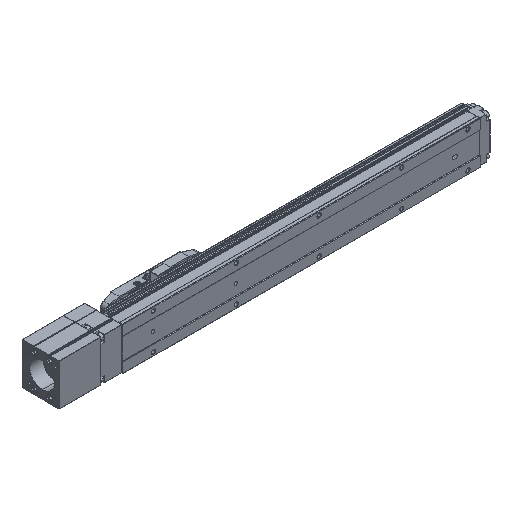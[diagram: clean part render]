
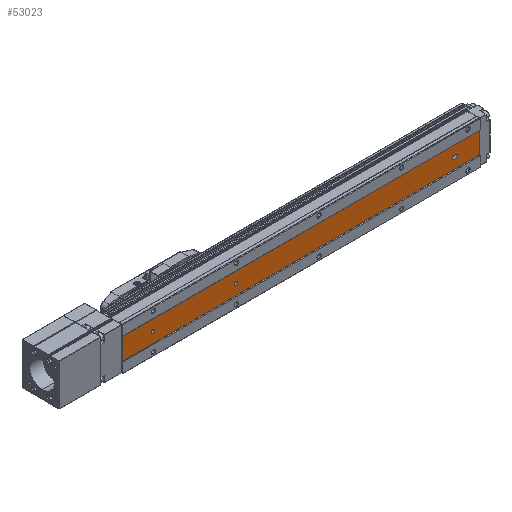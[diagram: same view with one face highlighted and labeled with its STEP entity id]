
A CAD part, isometric view. The second image highlights one B-rep face of the part: STEP entity #53023.
In plain terms, the highlighted planar face has unit normal (0, -1, 0).
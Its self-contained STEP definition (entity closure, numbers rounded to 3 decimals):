
#294 = CARTESIAN_POINT ( 'NONE',  ( 401., 0.6, -2. ) ) ;
#1630 = EDGE_LOOP ( 'NONE', ( #45450, #54212, #1798, #8540 ) ) ;
#1798 = ORIENTED_EDGE ( 'NONE', *, *, #46642, .F. ) ;
#1917 = EDGE_LOOP ( 'NONE', ( #48812, #23396 ) ) ;
#2178 = DIRECTION ( 'NONE',  ( 0., 1., 0. ) ) ;
#2251 = AXIS2_PLACEMENT_3D ( 'NONE', #47615, #23258, #18224 ) ;
#2966 = LINE ( 'NONE', #23673, #31588 ) ;
#3285 = CARTESIAN_POINT ( 'NONE',  ( 137., 0.6, 0. ) ) ;
#4264 = CARTESIAN_POINT ( 'NONE',  ( 403., 0.6, 2. ) ) ;
#4582 = VERTEX_POINT ( 'NONE', #39156 ) ;
#5187 = LINE ( 'NONE', #9410, #15678 ) ;
#5929 = VECTOR ( 'NONE', #53888, 1000. ) ;
#6123 = FACE_OUTER_BOUND ( 'NONE', #1630, .T. ) ;
#6395 = DIRECTION ( 'NONE',  ( 0., 1., 0. ) ) ;
#6606 = VERTEX_POINT ( 'NONE', #22146 ) ;
#7465 = DIRECTION ( 'NONE',  ( 0., 0., 1. ) ) ;
#7619 = ORIENTED_EDGE ( 'NONE', *, *, #8928, .T. ) ;
#7656 = DIRECTION ( 'NONE',  ( 1., 0., 0. ) ) ;
#7771 = VECTOR ( 'NONE', #11274, 1000. ) ;
#8540 = ORIENTED_EDGE ( 'NONE', *, *, #18458, .T. ) ;
#8928 = EDGE_CURVE ( 'NONE', #17136, #24237, #28177, .T. ) ;
#9410 = CARTESIAN_POINT ( 'NONE',  ( 432., 0.6, 2. ) ) ;
#10058 = CARTESIAN_POINT ( 'NONE',  ( 432., 0.6, 12.876 ) ) ;
#10546 = AXIS2_PLACEMENT_3D ( 'NONE', #34297, #38226, #46901 ) ;
#10790 = AXIS2_PLACEMENT_3D ( 'NONE', #3285, #2178, #7465 ) ;
#10972 = DIRECTION ( 'NONE',  ( 0., 0., 1. ) ) ;
#11212 = AXIS2_PLACEMENT_3D ( 'NONE', #48627, #22347, #53380 ) ;
#11274 = DIRECTION ( 'NONE',  ( 0., 0., -1. ) ) ;
#11417 = CARTESIAN_POINT ( 'NONE',  ( 432., 0.6, 12.876 ) ) ;
#12132 = VERTEX_POINT ( 'NONE', #53445 ) ;
#12926 = EDGE_LOOP ( 'NONE', ( #31289, #7619 ) ) ;
#14888 = EDGE_CURVE ( 'NONE', #24237, #17136, #51787, .T. ) ;
#15155 = CARTESIAN_POINT ( 'NONE',  ( 401., 0.6, 0. ) ) ;
#15678 = VECTOR ( 'NONE', #47209, 1000. ) ;
#17136 = VERTEX_POINT ( 'NONE', #54686 ) ;
#17909 = VECTOR ( 'NONE', #45054, 1000. ) ;
#18224 = DIRECTION ( 'NONE',  ( 0., 0., 1. ) ) ;
#18448 = FACE_BOUND ( 'NONE', #12926, .T. ) ;
#18458 = EDGE_CURVE ( 'NONE', #20903, #38404, #2966, .T. ) ;
#18733 = LINE ( 'NONE', #19856, #17909 ) ;
#19856 = CARTESIAN_POINT ( 'NONE',  ( 432., 0.6, -12.876 ) ) ;
#20903 = VERTEX_POINT ( 'NONE', #11417 ) ;
#22146 = CARTESIAN_POINT ( 'NONE',  ( 403., 0.6, -2. ) ) ;
#22347 = DIRECTION ( 'NONE',  ( 0., 1., 0. ) ) ;
#23258 = DIRECTION ( 'NONE',  ( 0., -1., 0. ) ) ;
#23396 = ORIENTED_EDGE ( 'NONE', *, *, #50105, .T. ) ;
#23673 = CARTESIAN_POINT ( 'NONE',  ( 432., 0.6, 12.876 ) ) ;
#23864 = EDGE_LOOP ( 'NONE', ( #51409, #40744, #49003, #32913 ) ) ;
#24098 = AXIS2_PLACEMENT_3D ( 'NONE', #35817, #44226, #48697 ) ;
#24237 = VERTEX_POINT ( 'NONE', #40372 ) ;
#24380 = AXIS2_PLACEMENT_3D ( 'NONE', #10058, #6395, #27129 ) ;
#27129 = DIRECTION ( 'NONE',  ( 0., 0., 1. ) ) ;
#27545 = EDGE_CURVE ( 'NONE', #54836, #35117, #5187, .T. ) ;
#28177 = CIRCLE ( 'NONE', #11212, 2. ) ;
#28437 = DIRECTION ( 'NONE',  ( -1., 0., 0. ) ) ;
#28478 = EDGE_CURVE ( 'NONE', #6606, #54836, #43352, .T. ) ;
#31289 = ORIENTED_EDGE ( 'NONE', *, *, #14888, .T. ) ;
#31306 = PLANE ( 'NONE',  #24380 ) ;
#31588 = VECTOR ( 'NONE', #28437, 1000. ) ;
#31918 = AXIS2_PLACEMENT_3D ( 'NONE', #15155, #49290, #10972 ) ;
#32913 = ORIENTED_EDGE ( 'NONE', *, *, #37077, .F. ) ;
#34297 = CARTESIAN_POINT ( 'NONE',  ( 137., 0.6, 0. ) ) ;
#34673 = CIRCLE ( 'NONE', #10546, 2. ) ;
#35117 = VERTEX_POINT ( 'NONE', #43942 ) ;
#35535 = EDGE_CURVE ( 'NONE', #38404, #12132, #53611, .T. ) ;
#35817 = CARTESIAN_POINT ( 'NONE',  ( 37., 0.6, 0. ) ) ;
#36368 = EDGE_CURVE ( 'NONE', #35117, #45721, #48004, .T. ) ;
#36909 = EDGE_CURVE ( 'NONE', #4582, #43348, #34673, .T. ) ;
#37077 = EDGE_CURVE ( 'NONE', #45721, #6606, #49090, .T. ) ;
#38226 = DIRECTION ( 'NONE',  ( 0., 1., 0. ) ) ;
#38404 = VERTEX_POINT ( 'NONE', #43071 ) ;
#39156 = CARTESIAN_POINT ( 'NONE',  ( 137., 0.6, -2. ) ) ;
#39437 = EDGE_CURVE ( 'NONE', #51395, #12132, #18733, .T. ) ;
#40372 = CARTESIAN_POINT ( 'NONE',  ( 37., 0.6, -2. ) ) ;
#40707 = CARTESIAN_POINT ( 'NONE',  ( 432., 0.6, -2. ) ) ;
#40744 = ORIENTED_EDGE ( 'NONE', *, *, #27545, .F. ) ;
#40919 = LINE ( 'NONE', #42016, #7771 ) ;
#41170 = CARTESIAN_POINT ( 'NONE',  ( 137., 0.6, 2. ) ) ;
#42016 = CARTESIAN_POINT ( 'NONE',  ( 432., 0.6, 12.876 ) ) ;
#42181 = CARTESIAN_POINT ( 'NONE',  ( 432., 0.6, -12.876 ) ) ;
#43071 = CARTESIAN_POINT ( 'NONE',  ( 0., 0.6, 12.876 ) ) ;
#43348 = VERTEX_POINT ( 'NONE', #41170 ) ;
#43352 = CIRCLE ( 'NONE', #2251, 2. ) ;
#43942 = CARTESIAN_POINT ( 'NONE',  ( 401., 0.6, 2. ) ) ;
#44226 = DIRECTION ( 'NONE',  ( 0., 1., 0. ) ) ;
#45054 = DIRECTION ( 'NONE',  ( -1., 0., 0. ) ) ;
#45450 = ORIENTED_EDGE ( 'NONE', *, *, #35535, .T. ) ;
#45721 = VERTEX_POINT ( 'NONE', #294 ) ;
#46084 = CARTESIAN_POINT ( 'NONE',  ( 0., 0.6, 12.876 ) ) ;
#46642 = EDGE_CURVE ( 'NONE', #20903, #51395, #40919, .T. ) ;
#46901 = DIRECTION ( 'NONE',  ( 0., 0., 1. ) ) ;
#47209 = DIRECTION ( 'NONE',  ( -1., 0., 0. ) ) ;
#47615 = CARTESIAN_POINT ( 'NONE',  ( 403., 0.6, 0. ) ) ;
#48004 = CIRCLE ( 'NONE', #31918, 2. ) ;
#48088 = VECTOR ( 'NONE', #7656, 1000. ) ;
#48627 = CARTESIAN_POINT ( 'NONE',  ( 37., 0.6, 0. ) ) ;
#48697 = DIRECTION ( 'NONE',  ( 0., 0., 1. ) ) ;
#48812 = ORIENTED_EDGE ( 'NONE', *, *, #36909, .T. ) ;
#49003 = ORIENTED_EDGE ( 'NONE', *, *, #28478, .F. ) ;
#49090 = LINE ( 'NONE', #40707, #48088 ) ;
#49221 = FACE_BOUND ( 'NONE', #23864, .T. ) ;
#49290 = DIRECTION ( 'NONE',  ( 0., -1., 0. ) ) ;
#50105 = EDGE_CURVE ( 'NONE', #43348, #4582, #53671, .T. ) ;
#51395 = VERTEX_POINT ( 'NONE', #42181 ) ;
#51409 = ORIENTED_EDGE ( 'NONE', *, *, #36368, .F. ) ;
#51787 = CIRCLE ( 'NONE', #24098, 2. ) ;
#52860 = FACE_BOUND ( 'NONE', #1917, .T. ) ;
#53023 = ADVANCED_FACE ( 'NONE', ( #18448, #52860, #6123, #49221 ), #31306, .F. ) ;
#53380 = DIRECTION ( 'NONE',  ( 0., 0., 1. ) ) ;
#53445 = CARTESIAN_POINT ( 'NONE',  ( 0., 0.6, -12.876 ) ) ;
#53611 = LINE ( 'NONE', #46084, #5929 ) ;
#53671 = CIRCLE ( 'NONE', #10790, 2. ) ;
#53888 = DIRECTION ( 'NONE',  ( 0., 0., -1. ) ) ;
#54212 = ORIENTED_EDGE ( 'NONE', *, *, #39437, .F. ) ;
#54686 = CARTESIAN_POINT ( 'NONE',  ( 37., 0.6, 2. ) ) ;
#54836 = VERTEX_POINT ( 'NONE', #4264 ) ;
